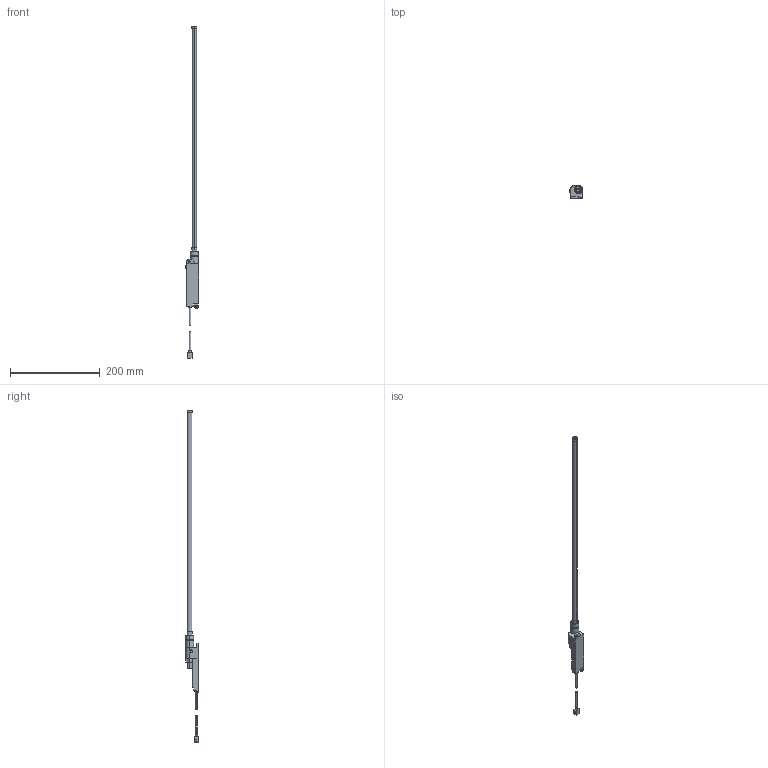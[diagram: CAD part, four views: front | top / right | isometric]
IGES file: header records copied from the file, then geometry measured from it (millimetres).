
Start section: SolidWorks IGES FILE using analytic representation for surfaces
Global section: file name: \\intra-srv04\開発データ\CAD_Data\CAD委員会\3D電子ｶﾀﾛｸﾞ\製品カタログ（新）\0_IGES\ER-VS01(+ER-VAK50).IGS,41HSolidWorks 2004; native system: by SolidWorks Corporation; preprocessor: Version 5.3; author: yk0651; date: 051026.151257; units: millimetre
Bounding box: 29.8 x 28.6 x 740 mm (x, y, z)
Surface area: 40214.3 mm2 (no closed solid volume)
Topology: 0 solids, 0 shells, 163 faces, 2352 edges, 2352 vertices
Faces by surface type: bspline 94, revolution 69
